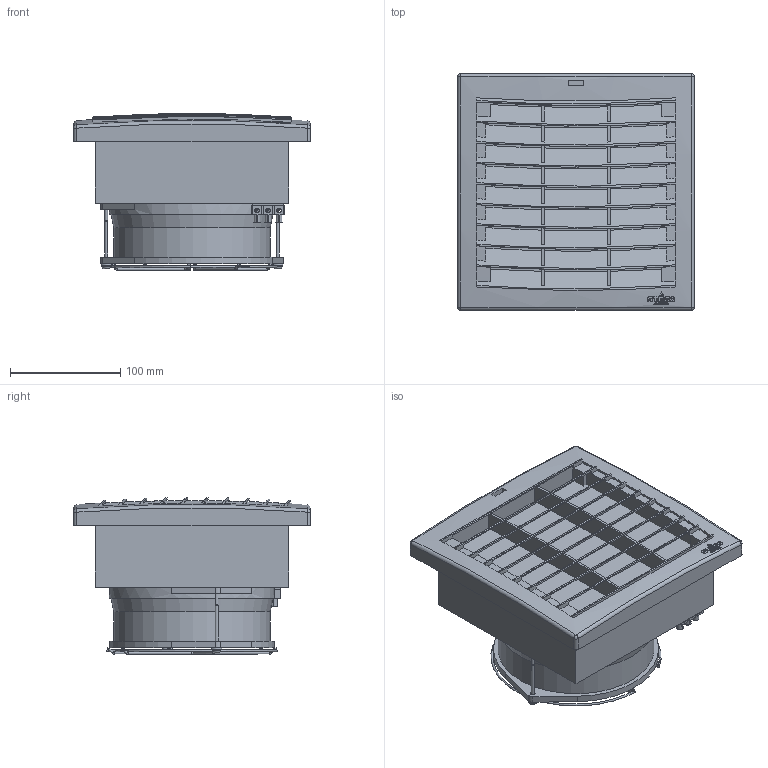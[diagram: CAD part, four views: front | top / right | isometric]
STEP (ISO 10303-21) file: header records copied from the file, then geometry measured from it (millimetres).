
FILE_DESCRIPTION (( 'STEP AP214' ), '1' );
FILE_NAME ('FPI-FPO_018_176x176_EPLAN_10_2015.STEP', '2015-10-15T12:37:16', ( '' ), ( '' ), 'SwSTEP 2.0', 'SolidWorks 2015', '' );
FILE_SCHEMA (( 'AUTOMOTIVE_DESIGN' ));
Length unit declared in the file: millimetre
Products named in the file (1): FPI-FPO_018_176x176_EPLAN_10_2015
Bounding box: 215 x 215 x 142.49 mm (x, y, z)
Surface area: 355276.1 mm2 (no closed solid volume)
Topology: 0 solids, 35 shells, 456 faces, 1831 edges, 1327 vertices
Faces by surface type: plane 203, cylinder 80, sphere 68, bspline 54, torus 36, cone 15
Full cylindrical faces by diameter (mm): 2.3 x13, 2.5 x2, 2.75 x2, 3.1 x2, 4 x3, 4.2 x4, 7.4 x2, 7.8 x2, 136 x1, 142 x1, 150 x1
Entity records: 27613 total; most frequent: CARTESIAN_POINT 8572, DIRECTION 2831, ORIENTED_EDGE 2629, EDGE_CURVE 1727, VERTEX_POINT 1300, AXIS2_PLACEMENT_3D 1066, LINE 699, VECTOR 699
